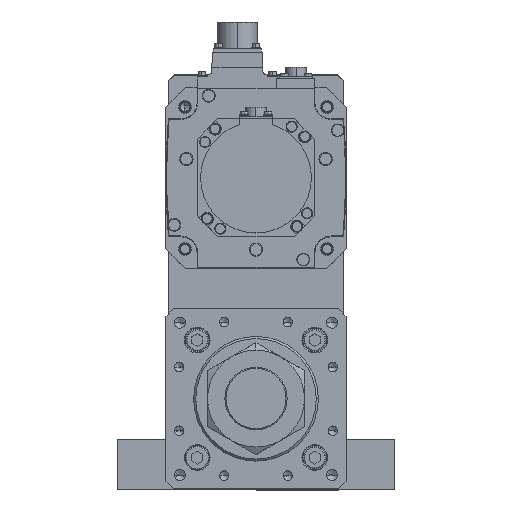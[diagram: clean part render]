
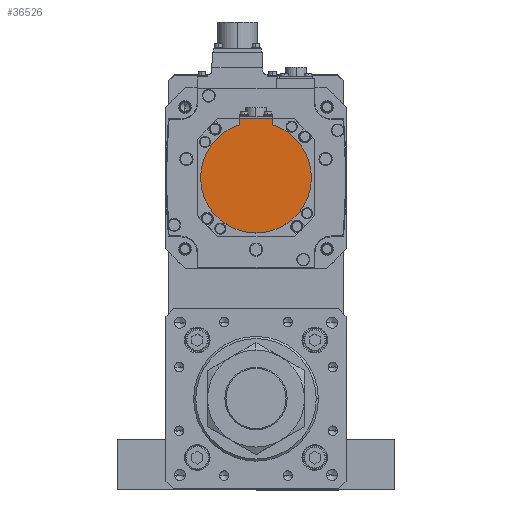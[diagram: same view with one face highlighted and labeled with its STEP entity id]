
A CAD part, top view. The second image highlights one B-rep face of the part: STEP entity #36526.
In plain terms, the highlighted planar face has unit normal (0, 0, 1) as drawn and (0, 0, -1) by its records, which use the part's own axes.
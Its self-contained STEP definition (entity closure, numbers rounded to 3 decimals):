
#67 = CIRCLE ( 'NONE', #25486, 40. ) ;
#315 = EDGE_CURVE ( 'NONE', #36813, #14888, #15561, .T. ) ;
#1558 = CARTESIAN_POINT ( 'NONE',  ( 0., 0., -181. ) ) ;
#3186 = VERTEX_POINT ( 'NONE', #7343 ) ;
#3328 = ORIENTED_EDGE ( 'NONE', *, *, #18496, .T. ) ;
#3533 = VERTEX_POINT ( 'NONE', #6280 ) ;
#3724 = EDGE_CURVE ( 'NONE', #3533, #8578, #67, .T. ) ;
#4517 = CARTESIAN_POINT ( 'NONE',  ( 0., -42.5, -181. ) ) ;
#4778 = PLANE ( 'NONE',  #33458 ) ;
#5037 = DIRECTION ( 'NONE',  ( 0., 0., 1. ) ) ;
#6280 = CARTESIAN_POINT ( 'NONE',  ( -40., 0., -181. ) ) ;
#6420 = CARTESIAN_POINT ( 'NONE',  ( -12., -42.5, -181. ) ) ;
#6791 = EDGE_CURVE ( 'NONE', #14888, #3533, #9372, .T. ) ;
#7343 = CARTESIAN_POINT ( 'NONE',  ( 12., -42.5, -181. ) ) ;
#7942 = DIRECTION ( 'NONE',  ( 1., 0., 0. ) ) ;
#8032 = ORIENTED_EDGE ( 'NONE', *, *, #3724, .F. ) ;
#8578 = VERTEX_POINT ( 'NONE', #16391 ) ;
#9224 = DIRECTION ( 'NONE',  ( 0., 1., 0. ) ) ;
#9372 = CIRCLE ( 'NONE', #34436, 40. ) ;
#10071 = CARTESIAN_POINT ( 'NONE',  ( -12., -40.329, -181. ) ) ;
#11122 = DIRECTION ( 'NONE',  ( 0., 0., 1. ) ) ;
#11446 = CARTESIAN_POINT ( 'NONE',  ( 0., -1.25, -181. ) ) ;
#12163 = CARTESIAN_POINT ( 'NONE',  ( 12., -1.25, -181. ) ) ;
#12201 = EDGE_LOOP ( 'NONE', ( #14144, #8032, #27258, #30116, #34397, #3328 ) ) ;
#13118 = EDGE_CURVE ( 'NONE', #18231, #8578, #18651, .T. ) ;
#13550 = DIRECTION ( 'NONE',  ( -1., 0., 0. ) ) ;
#13729 = AXIS2_PLACEMENT_3D ( 'NONE', #1558, #11122, #26080 ) ;
#14044 = FACE_OUTER_BOUND ( 'NONE', #12201, .T. ) ;
#14144 = ORIENTED_EDGE ( 'NONE', *, *, #13118, .T. ) ;
#14180 = DIRECTION ( 'NONE',  ( 0., 0., 1. ) ) ;
#14284 = CARTESIAN_POINT ( 'NONE',  ( 40., 0., -181. ) ) ;
#14417 = LINE ( 'NONE', #12163, #17721 ) ;
#14888 = VERTEX_POINT ( 'NONE', #14284 ) ;
#15561 = CIRCLE ( 'NONE', #13729, 40. ) ;
#16391 = CARTESIAN_POINT ( 'NONE',  ( -12., -38.158, -181. ) ) ;
#16946 = CARTESIAN_POINT ( 'NONE',  ( 0., 0., -181. ) ) ;
#17721 = VECTOR ( 'NONE', #9224, 1000. ) ;
#18231 = VERTEX_POINT ( 'NONE', #6420 ) ;
#18496 = EDGE_CURVE ( 'NONE', #3186, #18231, #35616, .T. ) ;
#18651 = LINE ( 'NONE', #10071, #27220 ) ;
#21335 = CARTESIAN_POINT ( 'NONE',  ( 12., -38.158, -181. ) ) ;
#23076 = DIRECTION ( 'NONE',  ( 1., 0., 0. ) ) ;
#25486 = AXIS2_PLACEMENT_3D ( 'NONE', #16946, #14180, #7942 ) ;
#26075 = DIRECTION ( 'NONE',  ( 0., 0., 1. ) ) ;
#26080 = DIRECTION ( 'NONE',  ( 1., 0., 0. ) ) ;
#27220 = VECTOR ( 'NONE', #28195, 1000. ) ;
#27258 = ORIENTED_EDGE ( 'NONE', *, *, #6791, .F. ) ;
#27351 = EDGE_CURVE ( 'NONE', #3186, #36813, #14417, .T. ) ;
#28195 = DIRECTION ( 'NONE',  ( 0., 1., 0. ) ) ;
#30116 = ORIENTED_EDGE ( 'NONE', *, *, #315, .F. ) ;
#32001 = DIRECTION ( 'NONE',  ( 1., 0., 0. ) ) ;
#32392 = CARTESIAN_POINT ( 'NONE',  ( 0., 0., -181. ) ) ;
#33458 = AXIS2_PLACEMENT_3D ( 'NONE', #11446, #5037, #23076 ) ;
#34397 = ORIENTED_EDGE ( 'NONE', *, *, #27351, .F. ) ;
#34436 = AXIS2_PLACEMENT_3D ( 'NONE', #32392, #26075, #32001 ) ;
#35616 = LINE ( 'NONE', #4517, #36549 ) ;
#36526 = ADVANCED_FACE ( 'NONE', ( #14044 ), #4778, .F. ) ;
#36549 = VECTOR ( 'NONE', #13550, 1000. ) ;
#36813 = VERTEX_POINT ( 'NONE', #21335 ) ;
